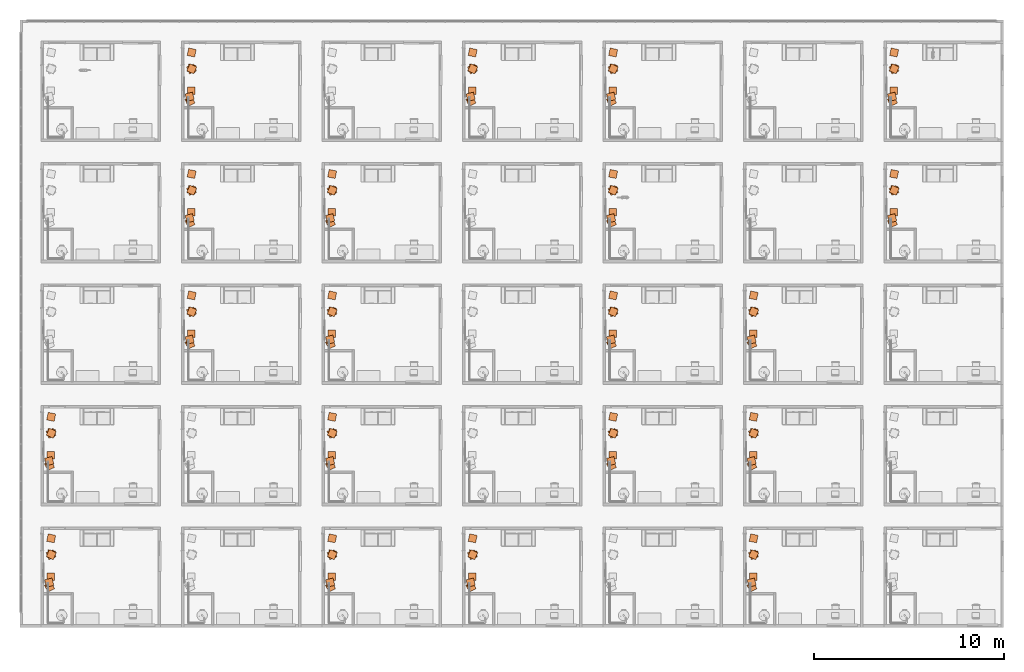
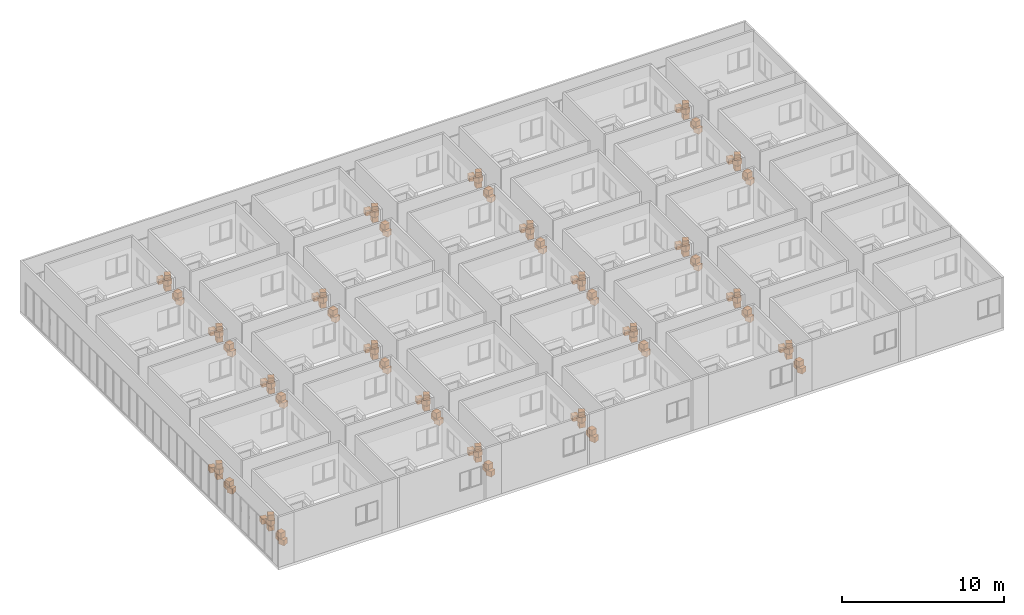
# One storey, part 71 of 71: 20 proxies.
"""IFC4 building model written with IfcOpenShell, lengths in centimetres."""

from ifc_helpers import new_model, entity, si_unit, converted_unit, derived_unit, direction, frame, origin, place, context, subcontext, project, spatial, indexed_curve, outline, extrude, source, transform, mapped, material, type_object, type_shapes, element, save


model = new_model("IFC4")

# Units and contexts
model_context = context("Model", 3, precision=0.001, world=origin(), true_north=direction((6.123233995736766e-17, 1.0)))
body_context = subcontext(model_context, "Body", "Model", "MODEL_VIEW")
ifc_project = project(units=[si_unit("LENGTHUNIT", "METRE", prefix="CENTI"), si_unit("AREAUNIT", "SQUARE_METRE"), si_unit("VOLUMEUNIT", "CUBIC_METRE"), derived_unit("THERMALTRANSMITTANCEUNIT", [(si_unit("MASSUNIT", "GRAM", prefix="KILO"), 1), (si_unit("THERMODYNAMICTEMPERATUREUNIT", "KELVIN"), -1), (si_unit("TIMEUNIT", "SECOND"), -3)]), converted_unit("PLANEANGLEUNIT", "DEGREE", entity("IfcPlaneAngleMeasure", 0.017453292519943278), si_unit("PLANEANGLEUNIT", "RADIAN"), dimensions=[0, 0, 0, 0, 0, 0, 0]), derived_unit("MASSDENSITYUNIT", [(si_unit("MASSUNIT", "GRAM", prefix="KILO"), 1), (si_unit("LENGTHUNIT", "METRE"), -3)]), derived_unit("VAPORPERMEABILITYUNIT", [(si_unit("LENGTHUNIT", "METRE"), -1), (si_unit("TIMEUNIT", "SECOND"), 1)]), derived_unit("USERDEFINED", [(si_unit("MASSUNIT", "GRAM", prefix="KILO"), 1), (si_unit("TIMEUNIT", "SECOND"), -3), (si_unit("LENGTHUNIT", "METRE"), 3), (si_unit("ELECTRICCURRENTUNIT", "AMPERE"), -2)]), derived_unit("SPECIFICHEATCAPACITYUNIT", [(si_unit("THERMODYNAMICTEMPERATUREUNIT", "KELVIN"), -1), (si_unit("LENGTHUNIT", "METRE"), 2), (si_unit("TIMEUNIT", "SECOND"), -2)]), derived_unit("THERMALCONDUCTANCEUNIT", [(si_unit("MASSUNIT", "GRAM", prefix="KILO"), 1), (si_unit("THERMODYNAMICTEMPERATUREUNIT", "KELVIN"), -1), (si_unit("TIMEUNIT", "SECOND"), -3), (si_unit("LENGTHUNIT", "METRE"), 1)]), si_unit("PRESSUREUNIT", "PASCAL"), derived_unit("MODULUSOFELASTICITYUNIT", [(si_unit("MASSUNIT", "GRAM", prefix="KILO"), 1), (si_unit("LENGTHUNIT", "METRE"), -1), (si_unit("TIMEUNIT", "SECOND"), -2)]), derived_unit("THERMALEXPANSIONCOEFFICIENTUNIT", [(si_unit("THERMODYNAMICTEMPERATUREUNIT", "KELVIN"), -1)])], contexts=[model_context])

# Site, building, storey, space
site_placement = place(None, origin())
site = spatial("IfcSite", under=ifc_project, at=site_placement, Name="Default", CompositionType="ELEMENT")
building_placement = place(site_placement, origin())
building = spatial("IfcBuilding", under=site, at=building_placement, Name="IDS Escape Game Building", CompositionType="ELEMENT")
storey_placement = place(building_placement, frame((0.0, 0.0, 400.0)))
storey = spatial("IfcBuildingStorey", under=building, at=storey_placement, Name="01_First Floor", CompositionType="ELEMENT", Elevation=399.99999999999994)
space_1_placement = place(storey_placement, origin())
space_1 = spatial("IfcSpace", under=storey, at=space_1_placement, Name="63", CompositionType="ELEMENT", PredefinedType="NOTDEFINED")

# Proxy
ifc_material = material(Name="<Unnamed>")
building_element_proxy_type = type_object("IfcBuildingElementProxyType", Name="Moving Boxes:Moving Boxes", PredefinedType="NOTDEFINED", material=ifc_material)
shared_shape = source(origin(), body_context, "Body", "SweptSolid", [
    extrude(outline(indexed_curve([(-20.0, -20.0), (20.0, -20.0), (20.0, 20.0), (-20.0, 20.0), (-20.0, -20.0)], self_intersect=False)), frame((-129.4888892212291, -20.0, 0.0), z_axis=(0.0, 0.0, 1.0), x_axis=(-1.0, 0.0, 0.0)), (0.0, 0.0, 1.0), 40.0),
    extrude(outline(indexed_curve([(-20.0, -20.0), (20.00000000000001, -19.999999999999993), (20.0, 20.0), (-20.00000000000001, 19.999999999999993), (-20.0, -20.0)], self_intersect=False)), frame((-75.45547766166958, -26.102318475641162, 0.0), z_axis=(0.0, 0.0, 1.0), x_axis=(-0.906307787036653, -0.422618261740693, 0.0)), (0.0, 0.0, 1.0), 39.99999999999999),
    extrude(outline(indexed_curve([(-20.00000000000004, -19.999999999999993), (20.00000000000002, -19.999999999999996), (20.000000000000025, 19.999999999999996), (-20.000000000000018, 20.000000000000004), (-20.00000000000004, -19.999999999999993)], self_intersect=False)), frame((-98.66287120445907, -27.650524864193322, 40.0), z_axis=(0.0, 0.0, 1.0), x_axis=(-0.970295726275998, -0.24192189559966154, 0.0)), (0.0, 0.0, 1.0), 39.99999999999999),
    extrude(outline(indexed_curve([(-20.000000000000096, -20.00000000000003), (20.000000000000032, -20.000000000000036), (20.000000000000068, 20.000000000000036), (-20.00000000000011, 20.00000000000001), (-20.000000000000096, -20.00000000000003)], self_intersect=False)), frame((-247.73174870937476, -17.18153286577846, 0.0), z_axis=(0.0, 0.0, 1.0), x_axis=(-0.9794785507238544, 0.2015484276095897, 0.0)), (0.0, 0.0, 1.0), 39.999999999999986),
    extrude(outline(indexed_curve([(-20.00000000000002, -20.00000000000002), (20.00000000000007, -20.00000000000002), (20.000000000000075, 20.00000000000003), (-20.00000000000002, 20.00000000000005), (-20.00000000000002, -20.00000000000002)], self_intersect=False)), frame((-331.1917744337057, -17.18153286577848, 0.0), z_axis=(0.0, 0.0, 1.0), x_axis=(-0.9794785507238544, 0.2015484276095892, 0.0)), (0.0, 0.0, 1.0), 40.0),
    extrude(outline(indexed_curve([(-20.000000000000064, -20.000000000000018), (20.0, -20.000000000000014), (20.000000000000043, 20.000000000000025), (-20.00000000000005, 20.000000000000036), (-20.000000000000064, -20.000000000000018)], self_intersect=False)), frame((-244.74820724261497, -18.001176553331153, 40.0), z_axis=(0.0, 0.0, 1.0), x_axis=(-0.9247289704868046, -0.38062623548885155, 0.0)), (0.0, 0.0, 1.0), 40.0),
    extrude(outline(indexed_curve([(-20.000000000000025, -20.000000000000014), (20.000000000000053, -20.00000000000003), (20.000000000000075, 20.000000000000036), (-20.000000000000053, 20.000000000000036), (-20.000000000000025, -20.000000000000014)], self_intersect=False)), frame((-245.38613222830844, -16.613316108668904, 80.0), z_axis=(0.0, 0.0, 1.0), x_axis=(-0.9106045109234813, 0.41327887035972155, 0.0)), (0.0, 0.0, 1.0), 39.99999999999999),
])
type_shapes(building_element_proxy_type, [shared_shape])
proxy_1_placement = place(space_1_placement, frame((4492.0, 2049.0, 0.0), z_axis=(0.0, 0.0, 1.0), x_axis=(0.0, -1.0, 0.0)))
element("IfcBuildingElementProxy", 1, at=proxy_1_placement, inside=space_1, type_object=building_element_proxy_type, material=ifc_material, Name="Moving Boxes:Moving Boxes", ObjectType="Moving Boxes:Moving Boxes", PredefinedType="NOTDEFINED", context=body_context, shape_type="MappedRepresentation", body=[
    mapped(shared_shape, transform((0.0, 0.0, 0.0), scale=1.0)),
])

# Space
space_2_placement = place(storey_placement, origin())
space_2 = spatial("IfcSpace", under=storey, at=space_2_placement, Name="70", CompositionType="ELEMENT", PredefinedType="NOTDEFINED")

# Proxy
proxy_2_placement = place(space_2_placement, frame((4492.0, 2687.0, 0.0), z_axis=(0.0, 0.0, 1.0), x_axis=(0.0, -1.0, 0.0)))
element("IfcBuildingElementProxy", 2, at=proxy_2_placement, inside=space_2, type_object=building_element_proxy_type, material=ifc_material, Name="Moving Boxes:Moving Boxes", ObjectType="Moving Boxes:Moving Boxes", PredefinedType="NOTDEFINED", context=body_context, shape_type="MappedRepresentation", body=[
    mapped(shared_shape, transform((0.0, 0.0, 0.0), scale=1.0)),
])

# Space
space_3_placement = place(storey_placement, origin())
space_3 = spatial("IfcSpace", under=storey, at=space_3_placement, Name="41", CompositionType="ELEMENT", PredefinedType="NOTDEFINED")

# Proxy
proxy_3_placement = place(space_3_placement, frame((3754.0, 135.0, 0.0), z_axis=(0.0, 0.0, 1.0), x_axis=(0.0, -1.0, 0.0)))
element("IfcBuildingElementProxy", 3, at=proxy_3_placement, inside=space_3, type_object=building_element_proxy_type, material=ifc_material, Name="Moving Boxes:Moving Boxes", ObjectType="Moving Boxes:Moving Boxes", PredefinedType="NOTDEFINED", context=body_context, shape_type="MappedRepresentation", body=[
    mapped(shared_shape, transform((0.0, 0.0, 0.0), scale=1.0)),
])

# Space
space_4_placement = place(storey_placement, origin())
space_4 = spatial("IfcSpace", under=storey, at=space_4_placement, Name="48", CompositionType="ELEMENT", PredefinedType="NOTDEFINED")

# Proxy
proxy_4_placement = place(space_4_placement, frame((3754.0, 773.0, 0.0), z_axis=(0.0, 0.0, 1.0), x_axis=(0.0, -1.0, 0.0)))
element("IfcBuildingElementProxy", 4, at=proxy_4_placement, inside=space_4, type_object=building_element_proxy_type, material=ifc_material, Name="Moving Boxes:Moving Boxes", ObjectType="Moving Boxes:Moving Boxes", PredefinedType="NOTDEFINED", context=body_context, shape_type="MappedRepresentation", body=[
    mapped(shared_shape, transform((0.0, 0.0, 0.0), scale=1.0)),
])

# Space
space_5_placement = place(storey_placement, origin())
space_5 = spatial("IfcSpace", under=storey, at=space_5_placement, Name="55", CompositionType="ELEMENT", PredefinedType="NOTDEFINED")

# Proxy
proxy_5_placement = place(space_5_placement, frame((3754.0, 1411.0, 0.0), z_axis=(0.0, 0.0, 1.0), x_axis=(0.0, -1.0, 0.0)))
element("IfcBuildingElementProxy", 5, at=proxy_5_placement, inside=space_5, type_object=building_element_proxy_type, material=ifc_material, Name="Moving Boxes:Moving Boxes", ObjectType="Moving Boxes:Moving Boxes", PredefinedType="NOTDEFINED", context=body_context, shape_type="MappedRepresentation", body=[
    mapped(shared_shape, transform((0.0, 0.0, 0.0), scale=1.0)),
])

# Space
space_6_placement = place(storey_placement, origin())
space_6 = spatial("IfcSpace", under=storey, at=space_6_placement, Name="47", CompositionType="ELEMENT", PredefinedType="NOTDEFINED")

# Proxy
proxy_6_placement = place(space_6_placement, frame((3016.0, 773.0, 0.0), z_axis=(0.0, 0.0, 1.0), x_axis=(0.0, -1.0, 0.0)))
element("IfcBuildingElementProxy", 6, at=proxy_6_placement, inside=space_6, type_object=building_element_proxy_type, material=ifc_material, Name="Moving Boxes:Moving Boxes", ObjectType="Moving Boxes:Moving Boxes", PredefinedType="NOTDEFINED", context=body_context, shape_type="MappedRepresentation", body=[
    mapped(shared_shape, transform((0.0, 0.0, 0.0), scale=1.0)),
])

# Space
space_7_placement = place(storey_placement, origin())
space_7 = spatial("IfcSpace", under=storey, at=space_7_placement, Name="54", CompositionType="ELEMENT", PredefinedType="NOTDEFINED")

# Proxy
proxy_7_placement = place(space_7_placement, frame((3016.0, 1411.0, 0.0), z_axis=(0.0, 0.0, 1.0), x_axis=(0.0, -1.0, 0.0)))
element("IfcBuildingElementProxy", 7, at=proxy_7_placement, inside=space_7, type_object=building_element_proxy_type, material=ifc_material, Name="Moving Boxes:Moving Boxes", ObjectType="Moving Boxes:Moving Boxes", PredefinedType="NOTDEFINED", context=body_context, shape_type="MappedRepresentation", body=[
    mapped(shared_shape, transform((0.0, 0.0, 0.0), scale=1.0)),
])

# Space
space_8_placement = place(storey_placement, origin())
space_8 = spatial("IfcSpace", under=storey, at=space_8_placement, Name="61", CompositionType="ELEMENT", PredefinedType="NOTDEFINED")

# Proxy
proxy_8_placement = place(space_8_placement, frame((3016.0, 2049.0, 0.0), z_axis=(0.0, 0.0, 1.0), x_axis=(0.0, -1.0, 0.0)))
element("IfcBuildingElementProxy", 8, at=proxy_8_placement, inside=space_8, type_object=building_element_proxy_type, material=ifc_material, Name="Moving Boxes:Moving Boxes", ObjectType="Moving Boxes:Moving Boxes", PredefinedType="NOTDEFINED", context=body_context, shape_type="MappedRepresentation", body=[
    mapped(shared_shape, transform((0.0, 0.0, 0.0), scale=1.0)),
])

# Space
space_9_placement = place(storey_placement, origin())
space_9 = spatial("IfcSpace", under=storey, at=space_9_placement, Name="68", CompositionType="ELEMENT", PredefinedType="NOTDEFINED")

# Proxy
proxy_9_placement = place(space_9_placement, frame((3016.0, 2687.0, 0.0), z_axis=(0.0, 0.0, 1.0), x_axis=(0.0, -1.0, 0.0)))
element("IfcBuildingElementProxy", 9, at=proxy_9_placement, inside=space_9, type_object=building_element_proxy_type, material=ifc_material, Name="Moving Boxes:Moving Boxes", ObjectType="Moving Boxes:Moving Boxes", PredefinedType="NOTDEFINED", context=body_context, shape_type="MappedRepresentation", body=[
    mapped(shared_shape, transform((0.0, 0.0, 0.0), scale=1.0)),
])

# Space
space_10_placement = place(storey_placement, origin())
space_10 = spatial("IfcSpace", under=storey, at=space_10_placement, Name="39", CompositionType="ELEMENT", PredefinedType="NOTDEFINED")

# Proxy
proxy_10_placement = place(space_10_placement, frame((2278.0, 135.0, 0.0), z_axis=(0.0, 0.0, 1.0), x_axis=(0.0, -1.0, 0.0)))
element("IfcBuildingElementProxy", 10, at=proxy_10_placement, inside=space_10, type_object=building_element_proxy_type, material=ifc_material, Name="Moving Boxes:Moving Boxes", ObjectType="Moving Boxes:Moving Boxes", PredefinedType="NOTDEFINED", context=body_context, shape_type="MappedRepresentation", body=[
    mapped(shared_shape, transform((0.0, 0.0, 0.0), scale=1.0)),
])

# Space
space_11_placement = place(storey_placement, origin())
space_11 = spatial("IfcSpace", under=storey, at=space_11_placement, Name="67", CompositionType="ELEMENT", PredefinedType="NOTDEFINED")

# Proxy
proxy_11_placement = place(space_11_placement, frame((2278.0, 2687.0, 0.0), z_axis=(0.0, 0.0, 1.0), x_axis=(0.0, -1.0, 0.0)))
element("IfcBuildingElementProxy", 11, at=proxy_11_placement, inside=space_11, type_object=building_element_proxy_type, material=ifc_material, Name="Moving Boxes:Moving Boxes", ObjectType="Moving Boxes:Moving Boxes", PredefinedType="NOTDEFINED", context=body_context, shape_type="MappedRepresentation", body=[
    mapped(shared_shape, transform((0.0, 0.0, 0.0), scale=1.0)),
])

# Space
space_12_placement = place(storey_placement, origin())
space_12 = spatial("IfcSpace", under=storey, at=space_12_placement, Name="38", CompositionType="ELEMENT", PredefinedType="NOTDEFINED")

# Proxy
proxy_12_placement = place(space_12_placement, frame((1540.0, 135.0, 0.0), z_axis=(0.0, 0.0, 1.0), x_axis=(0.0, -1.0, 0.0)))
element("IfcBuildingElementProxy", 12, at=proxy_12_placement, inside=space_12, type_object=building_element_proxy_type, material=ifc_material, Name="Moving Boxes:Moving Boxes", ObjectType="Moving Boxes:Moving Boxes", PredefinedType="NOTDEFINED", context=body_context, shape_type="MappedRepresentation", body=[
    mapped(shared_shape, transform((0.0, 0.0, 0.0), scale=1.0)),
])

# Space
space_13_placement = place(storey_placement, origin())
space_13 = spatial("IfcSpace", under=storey, at=space_13_placement, Name="45", CompositionType="ELEMENT", PredefinedType="NOTDEFINED")

# Proxy
proxy_13_placement = place(space_13_placement, frame((1540.0, 773.0, 0.0), z_axis=(0.0, 0.0, 1.0), x_axis=(0.0, -1.0, 0.0)))
element("IfcBuildingElementProxy", 13, at=proxy_13_placement, inside=space_13, type_object=building_element_proxy_type, material=ifc_material, Name="Moving Boxes:Moving Boxes", ObjectType="Moving Boxes:Moving Boxes", PredefinedType="NOTDEFINED", context=body_context, shape_type="MappedRepresentation", body=[
    mapped(shared_shape, transform((0.0, 0.0, 0.0), scale=1.0)),
])

# Space
space_14_placement = place(storey_placement, origin())
space_14 = spatial("IfcSpace", under=storey, at=space_14_placement, Name="52", CompositionType="ELEMENT", PredefinedType="NOTDEFINED")

# Proxy
proxy_14_placement = place(space_14_placement, frame((1540.0, 1411.0, 0.0), z_axis=(0.0, 0.0, 1.0), x_axis=(0.0, -1.0, 0.0)))
element("IfcBuildingElementProxy", 14, at=proxy_14_placement, inside=space_14, type_object=building_element_proxy_type, material=ifc_material, Name="Moving Boxes:Moving Boxes", ObjectType="Moving Boxes:Moving Boxes", PredefinedType="NOTDEFINED", context=body_context, shape_type="MappedRepresentation", body=[
    mapped(shared_shape, transform((0.0, 0.0, 0.0), scale=1.0)),
])

# Space
space_15_placement = place(storey_placement, origin())
space_15 = spatial("IfcSpace", under=storey, at=space_15_placement, Name="59", CompositionType="ELEMENT", PredefinedType="NOTDEFINED")

# Proxy
proxy_15_placement = place(space_15_placement, frame((1540.0, 2049.0, 0.0), z_axis=(0.0, 0.0, 1.0), x_axis=(0.0, -1.0, 0.0)))
element("IfcBuildingElementProxy", 15, at=proxy_15_placement, inside=space_15, type_object=building_element_proxy_type, material=ifc_material, Name="Moving Boxes:Moving Boxes", ObjectType="Moving Boxes:Moving Boxes", PredefinedType="NOTDEFINED", context=body_context, shape_type="MappedRepresentation", body=[
    mapped(shared_shape, transform((0.0, 0.0, 0.0), scale=1.0)),
])

# Space
space_16_placement = place(storey_placement, origin())
space_16 = spatial("IfcSpace", under=storey, at=space_16_placement, Name="51", CompositionType="ELEMENT", PredefinedType="NOTDEFINED")

# Proxy
proxy_16_placement = place(space_16_placement, frame((802.0, 1411.0, 0.0), z_axis=(0.0, 0.0, 1.0), x_axis=(0.0, -1.0, 0.0)))
element("IfcBuildingElementProxy", 16, at=proxy_16_placement, inside=space_16, type_object=building_element_proxy_type, material=ifc_material, Name="Moving Boxes:Moving Boxes", ObjectType="Moving Boxes:Moving Boxes", PredefinedType="NOTDEFINED", context=body_context, shape_type="MappedRepresentation", body=[
    mapped(shared_shape, transform((0.0, 0.0, 0.0), scale=1.0)),
])

# Space
space_17_placement = place(storey_placement, origin())
space_17 = spatial("IfcSpace", under=storey, at=space_17_placement, Name="58", CompositionType="ELEMENT", PredefinedType="NOTDEFINED")

# Proxy
proxy_17_placement = place(space_17_placement, frame((802.0, 2049.0, 0.0), z_axis=(0.0, 0.0, 1.0), x_axis=(0.0, -1.0, 0.0)))
element("IfcBuildingElementProxy", 17, at=proxy_17_placement, inside=space_17, type_object=building_element_proxy_type, material=ifc_material, Name="Moving Boxes:Moving Boxes", ObjectType="Moving Boxes:Moving Boxes", PredefinedType="NOTDEFINED", context=body_context, shape_type="MappedRepresentation", body=[
    mapped(shared_shape, transform((0.0, 0.0, 0.0), scale=1.0)),
])

# Space
space_18_placement = place(storey_placement, origin())
space_18 = spatial("IfcSpace", under=storey, at=space_18_placement, Name="65", CompositionType="ELEMENT", PredefinedType="NOTDEFINED")

# Proxy
proxy_18_placement = place(space_18_placement, frame((802.0, 2687.0, 0.0), z_axis=(0.0, 0.0, 1.0), x_axis=(0.0, -1.0, 0.0)))
element("IfcBuildingElementProxy", 18, at=proxy_18_placement, inside=space_18, type_object=building_element_proxy_type, material=ifc_material, Name="Moving Boxes:Moving Boxes", ObjectType="Moving Boxes:Moving Boxes", PredefinedType="NOTDEFINED", context=body_context, shape_type="MappedRepresentation", body=[
    mapped(shared_shape, transform((0.0, 0.0, 0.0), scale=1.0)),
])

# Space
space_19_placement = place(storey_placement, origin())
space_19 = spatial("IfcSpace", under=storey, at=space_19_placement, Name="36", CompositionType="ELEMENT", PredefinedType="NOTDEFINED")

# Proxy
proxy_19_placement = place(space_19_placement, frame((64.0, 135.0, 0.0), z_axis=(0.0, 0.0, 1.0), x_axis=(0.0, -1.0, 0.0)))
element("IfcBuildingElementProxy", 19, at=proxy_19_placement, inside=space_19, type_object=building_element_proxy_type, material=ifc_material, Name="Moving Boxes:Moving Boxes", ObjectType="Moving Boxes:Moving Boxes", PredefinedType="NOTDEFINED", context=body_context, shape_type="MappedRepresentation", body=[
    mapped(shared_shape, transform((0.0, 0.0, 0.0), scale=1.0)),
])

# Space
space_20_placement = place(storey_placement, origin())
space_20 = spatial("IfcSpace", under=storey, at=space_20_placement, Name="43", CompositionType="ELEMENT", PredefinedType="NOTDEFINED")

# Proxy
proxy_20_placement = place(space_20_placement, frame((64.0, 773.0, 0.0), z_axis=(0.0, 0.0, 1.0), x_axis=(0.0, -1.0, 0.0)))
element("IfcBuildingElementProxy", 20, at=proxy_20_placement, inside=space_20, type_object=building_element_proxy_type, material=ifc_material, Name="Moving Boxes:Moving Boxes", ObjectType="Moving Boxes:Moving Boxes", PredefinedType="NOTDEFINED", context=body_context, shape_type="MappedRepresentation", body=[
    mapped(shared_shape, transform((0.0, 0.0, 0.0), scale=1.0)),
])

save(model, "model.ifc")
